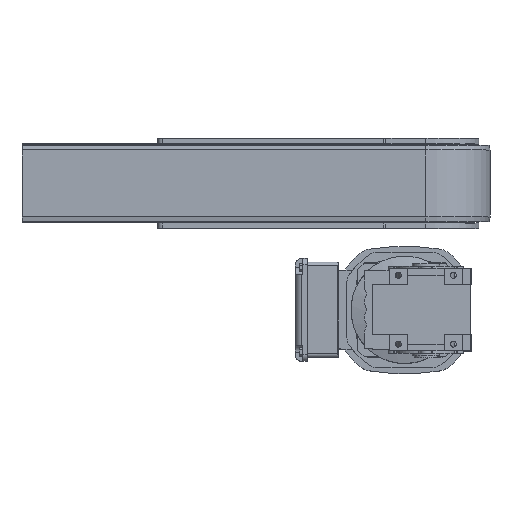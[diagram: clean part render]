
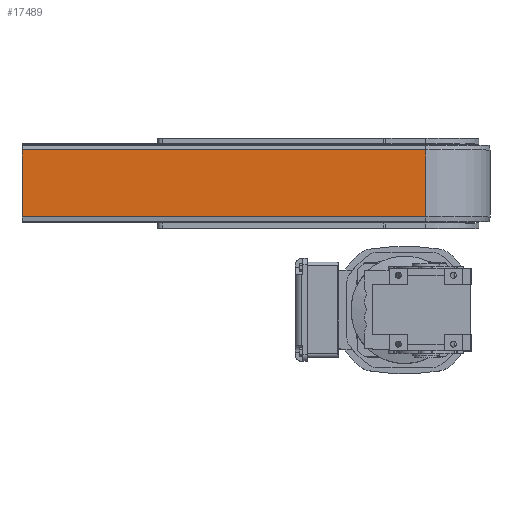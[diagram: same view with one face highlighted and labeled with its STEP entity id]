
A CAD part, top view. The second image highlights one B-rep face of the part: STEP entity #17489.
In plain terms, the highlighted planar face has unit normal (0, 0, 1).
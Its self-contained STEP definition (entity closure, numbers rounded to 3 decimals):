
#16077=CARTESIAN_POINT('',(-510.0,-36.5,0.0));
#16078=VERTEX_POINT('',#16077);
#16085=CARTESIAN_POINT('',(-510.0,36.5,0.0));
#16086=VERTEX_POINT('',#16085);
#16087=CARTESIAN_POINT('',(-510.0,36.5,0.0));
#16088=DIRECTION('',(0.0,-1.0,0.0));
#16089=VECTOR('',#16088,73.0);
#16090=LINE('',#16087,#16089);
#16091=EDGE_CURVE('',#16086,#16078,#16090,.T.);
#17447=CARTESIAN_POINT('',(-70.0,36.5,0.0));
#17448=VERTEX_POINT('',#17447);
#17449=CARTESIAN_POINT('',(-510.0,36.5,0.0));
#17450=DIRECTION('',(1.0,0.0,0.0));
#17451=VECTOR('',#17450,440.0);
#17452=LINE('',#17449,#17451);
#17453=EDGE_CURVE('',#16086,#17448,#17452,.T.);
#17466=CARTESIAN_POINT('',(-510.0,0.0,0.0));
#17467=DIRECTION('',(0.0,0.0,1.0));
#17468=DIRECTION('',(1.0,0.0,0.0));
#17469=AXIS2_PLACEMENT_3D('',#17466,#17467,#17468);
#17470=PLANE('',#17469);
#17471=CARTESIAN_POINT('',(-70.0,-36.5,0.0));
#17472=VERTEX_POINT('',#17471);
#17473=CARTESIAN_POINT('',(-510.0,-36.5,0.0));
#17474=DIRECTION('',(1.0,0.0,0.0));
#17475=VECTOR('',#17474,440.0);
#17476=LINE('',#17473,#17475);
#17477=EDGE_CURVE('',#16078,#17472,#17476,.T.);
#17478=ORIENTED_EDGE('',*,*,#17477,.T.);
#17479=CARTESIAN_POINT('',(-70.0,-36.5,0.0));
#17480=DIRECTION('',(0.0,1.0,0.0));
#17481=VECTOR('',#17480,73.0);
#17482=LINE('',#17479,#17481);
#17483=EDGE_CURVE('',#17472,#17448,#17482,.T.);
#17484=ORIENTED_EDGE('',*,*,#17483,.T.);
#17485=ORIENTED_EDGE('',*,*,#17453,.F.);
#17486=ORIENTED_EDGE('',*,*,#16091,.T.);
#17487=EDGE_LOOP('',(#17478,#17484,#17485,#17486));
#17488=FACE_OUTER_BOUND('',#17487,.T.);
#17489=ADVANCED_FACE('',(#17488),#17470,.T.);
